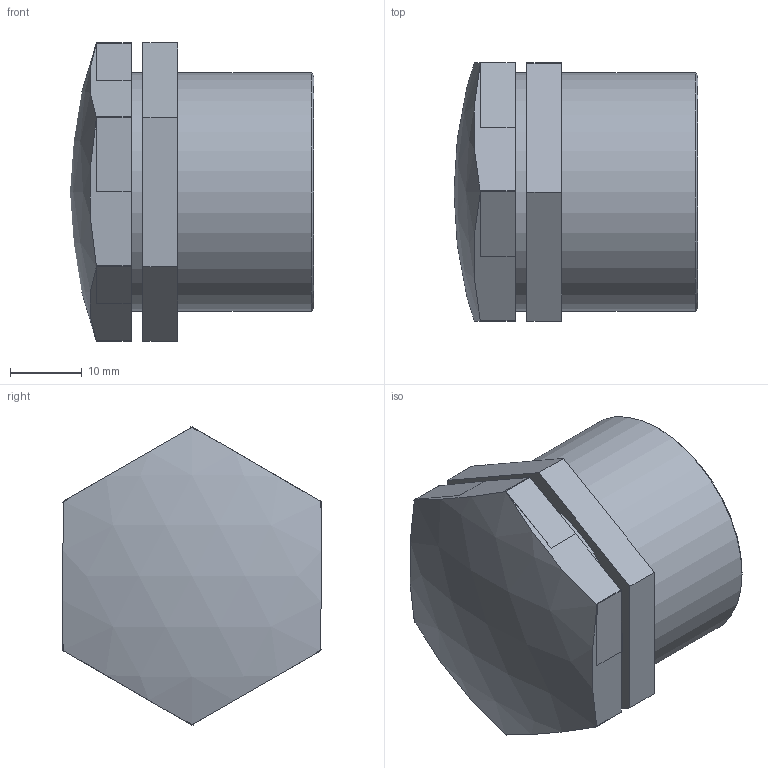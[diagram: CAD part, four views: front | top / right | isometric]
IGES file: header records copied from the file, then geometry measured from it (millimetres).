
Global section: file name: 051707010_0517070100A.ipt; native system: Autodesk Inventor 2015; preprocessor: unknown; author: Кирилл,,11,0; organization: 20170503.073136; date: 20170618.093335; units: millimetre
Bounding box: 34 x 36.15 x 41.57 mm (x, y, z)
Volume: 16010.8 mm3; surface area: 8589.8 mm2
Topology: 7 solids, 7 shells, 64 faces, 139 edges, 93 vertices
Faces by surface type: plane 52, revolution 8, cylinder 2, sphere 1, cone 1
Full cylindrical faces by diameter (mm): 33.249 x2
